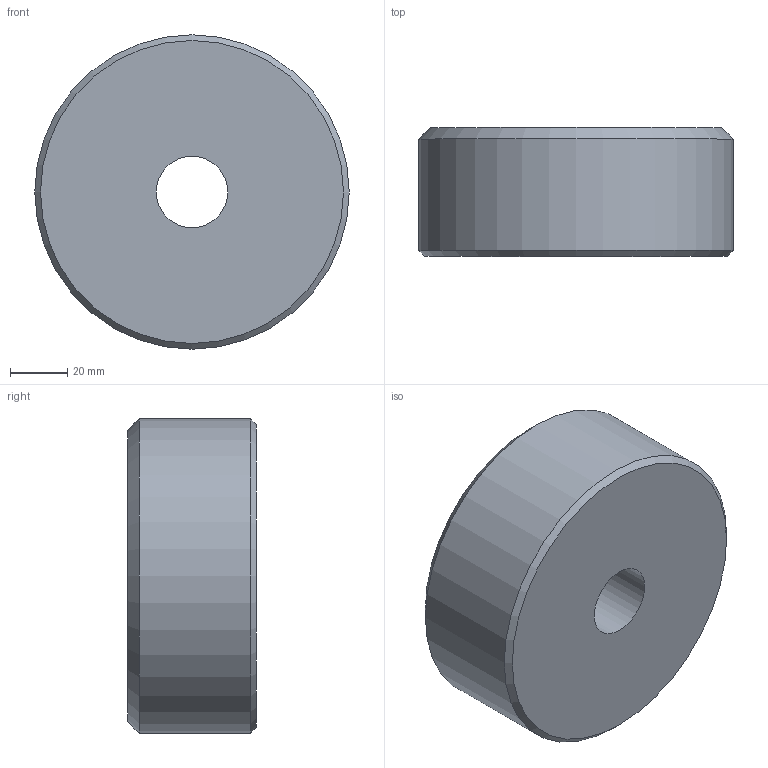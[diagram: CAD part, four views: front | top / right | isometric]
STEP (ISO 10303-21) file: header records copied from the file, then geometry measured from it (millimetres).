
FILE_DESCRIPTION(/* description */ (''),/* implementation_level */ '2;1');
FILE_NAME(/* name */ 'C:\Users\stagistaCAD\Desktop\00\00001260.stp',/* time_stamp */ '2018-06-18T09:12:48+02:00',/* author */ ('stagistacad'),/* organization */ (''),/* preprocessor_version */ 'ST-DEVELOPER v15.6',/* originating_system */ 'Autodesk Inventor 2015',/* authorisation */ '');
FILE_SCHEMA (('AUTOMOTIVE_DESIGN { 1 0 10303 214 3 1 1 }'));
Length unit declared in the file: millimetre
Products named in the file (1): 00001260
Bounding box: 110 x 45 x 110 mm (x, y, z)
Volume: 402179.6 mm3; surface area: 35869.4 mm2
Topology: 1 solids, 1 shells, 6 faces, 10 edges, 6 vertices
Faces by surface type: plane 2, cylinder 2, cone 2
Full cylindrical faces by diameter (mm): 25 x1, 110 x1
Entity records: 152 total; most frequent: DIRECTION 26, CARTESIAN_POINT 19, AXIS2_PLACEMENT_3D 13, EDGE_LOOP 12, ORIENTED_EDGE 12, FACE_BOUND 6, FACE_OUTER_BOUND 6, CIRCLE 6
